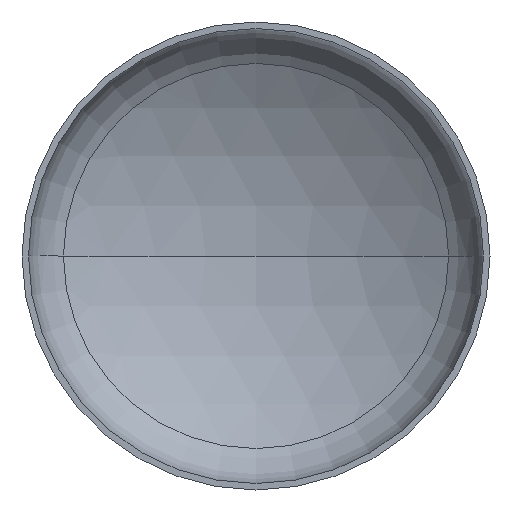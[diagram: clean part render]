
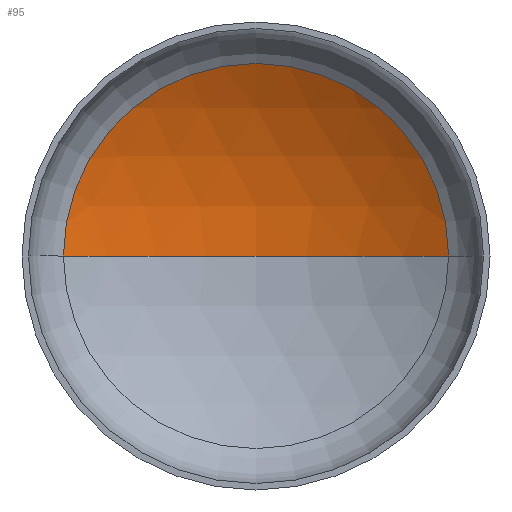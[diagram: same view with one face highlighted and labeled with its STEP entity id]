
A CAD part, front view. The second image highlights one B-rep face of the part: STEP entity #95.
In plain terms, the highlighted spherical face has radius 2080 mm.
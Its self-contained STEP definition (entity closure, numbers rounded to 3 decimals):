
#7 = AXIS2_PLACEMENT_3D ( 'NONE', #176, #349, #63 ) ;
#8 = EDGE_LOOP ( 'NONE', ( #93, #79, #24 ) ) ;
#24 = ORIENTED_EDGE ( 'NONE', *, *, #354, .T. ) ;
#26 = AXIS2_PLACEMENT_3D ( 'NONE', #402, #404, #312 ) ;
#63 = DIRECTION ( 'NONE',  ( 1., 0., 0. ) ) ;
#79 = ORIENTED_EDGE ( 'NONE', *, *, #388, .T. ) ;
#88 = CARTESIAN_POINT ( 'NONE',  ( 0., -1330.8, 0. ) ) ;
#90 = VERTEX_POINT ( 'NONE', #243 ) ;
#93 = ORIENTED_EDGE ( 'NONE', *, *, #380, .F. ) ;
#95 = ADVANCED_FACE ( 'NONE', ( #394 ), #157, .F. ) ;
#100 = VERTEX_POINT ( 'NONE', #241 ) ;
#109 = AXIS2_PLACEMENT_3D ( 'NONE', #238, #227, #226 ) ;
#117 = VERTEX_POINT ( 'NONE', #337 ) ;
#157 = SPHERICAL_SURFACE ( 'NONE', #109, 2080. ) ;
#174 = DIRECTION ( 'NONE',  ( -1., 0., 0. ) ) ;
#176 = CARTESIAN_POINT ( 'NONE',  ( 0., -1330.8, 0. ) ) ;
#202 = CIRCLE ( 'NONE', #219, 2080. ) ;
#219 = AXIS2_PLACEMENT_3D ( 'NONE', #88, #320, #174 ) ;
#226 = DIRECTION ( 'NONE',  ( -1., 0., 0. ) ) ;
#227 = DIRECTION ( 'NONE',  ( 0., 0., -1. ) ) ;
#238 = CARTESIAN_POINT ( 'NONE',  ( 0., -1330.8, 0. ) ) ;
#241 = CARTESIAN_POINT ( 'NONE',  ( 0., 749.2, 0. ) ) ;
#243 = CARTESIAN_POINT ( 'NONE',  ( -1069.714, 453.048, 0. ) ) ;
#267 = CIRCLE ( 'NONE', #7, 2080. ) ;
#282 = CIRCLE ( 'NONE', #26, 1069.714 ) ;
#312 = DIRECTION ( 'NONE',  ( 1., 0., 0. ) ) ;
#320 = DIRECTION ( 'NONE',  ( 0., 0., -1. ) ) ;
#337 = CARTESIAN_POINT ( 'NONE',  ( 1069.714, 453.048, 0. ) ) ;
#349 = DIRECTION ( 'NONE',  ( 0., 0., 1. ) ) ;
#354 = EDGE_CURVE ( 'NONE', #117, #90, #282, .T. ) ;
#380 = EDGE_CURVE ( 'NONE', #100, #90, #267, .T. ) ;
#388 = EDGE_CURVE ( 'NONE', #100, #117, #202, .T. ) ;
#394 = FACE_OUTER_BOUND ( 'NONE', #8, .T. ) ;
#402 = CARTESIAN_POINT ( 'NONE',  ( 0., 453.048, 0. ) ) ;
#404 = DIRECTION ( 'NONE',  ( 0., -1., 0. ) ) ;
